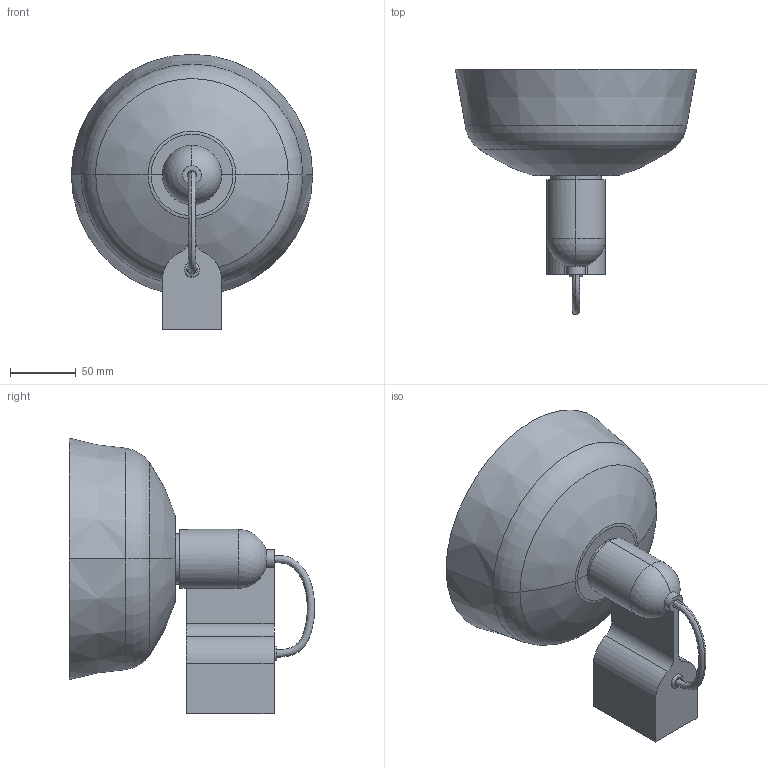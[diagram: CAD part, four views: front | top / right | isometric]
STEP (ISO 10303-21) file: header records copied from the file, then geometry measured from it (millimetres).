
FILE_DESCRIPTION(/* description */ (''),/* implementation_level */ '2;1');
FILE_NAME(/* name */ '20335-117.step',/* time_stamp */ '2024-05-16T12:49:14+02:00',/* author */ ('RenataManzini'),/* organization */ (''),/* preprocessor_version */ 'ST-DEVELOPER v20',/* originating_system */ 'AutoCAD Mechanical',/* authorisation */ '');
FILE_SCHEMA (('AUTOMOTIVE_DESIGN { 1 0 10303 214 3 1 1 }'));
Length unit declared in the file: millimetre
Products named in the file (2): Product; TATAWIN_APLIQUE_20335 - 29891 ORA LED Black spotlight-644420-_3D_
Assembly tree (1 placements, depth 2):
  Product
    TATAWIN_APLIQUE_20335 - 29891 ORA LED Black spotlight-644420-_3D_
Bounding box: 184.01 x 187.04 x 210.01 mm (x, y, z)
Volume: 345515.3 mm3; surface area: 172499 mm2
Topology: 6 solids, 6 shells, 150 faces, 348 edges, 210 vertices
Faces by surface type: plane 53, cylinder 49, cone 20, torus 12, sphere 10, bspline 6
Entity records: 6489 total; most frequent: CARTESIAN_POINT 3083, ORIENTED_EDGE 690, DIRECTION 689, EDGE_CURVE 345, AXIS2_PLACEMENT_3D 261, VERTEX_POINT 205, LINE 167, VECTOR 167
